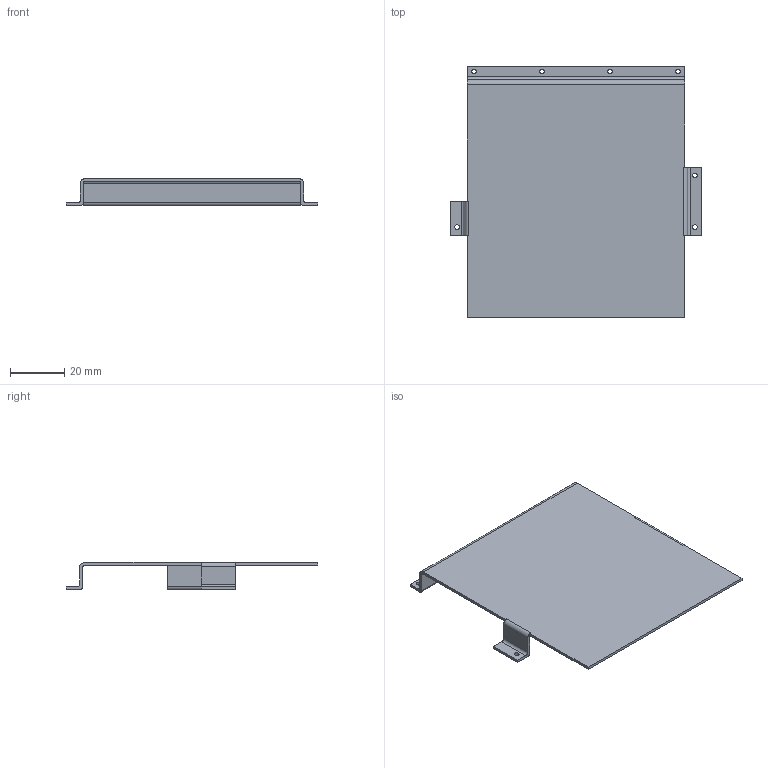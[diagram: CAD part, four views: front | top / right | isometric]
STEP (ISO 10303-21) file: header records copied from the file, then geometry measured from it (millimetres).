
FILE_DESCRIPTION((''),'2;1');
FILE_NAME('TRAPON_COVER_N','2020-03-13T',('g0715'),(''),'PRO/ENGINEER BY PARAMETRIC TECHNOLOGY CORPORATION, 2014090','PRO/ENGINEER BY PARAMETRIC TECHNOLOGY CORPORATION, 2014090','');
FILE_SCHEMA(('CONFIG_CONTROL_DESIGN'));
Length unit declared in the file: millimetre
Products named in the file (1): TRAPON_COVER_N
Bounding box: 92.4 x 92.6 x 10 mm (x, y, z)
Volume: 8616.7 mm3; surface area: 17596.3 mm2
Topology: 1 solids, 1 shells, 54 faces, 148 edges, 96 vertices
Faces by surface type: plane 30, cylinder 24
Entity records: 1786 total; most frequent: DIRECTION 308, CARTESIAN_POINT 298, ORIENTED_EDGE 296, EDGE_CURVE 148, AXIS2_PLACEMENT_3D 106, VECTOR 96, LINE 96, VERTEX_POINT 96
